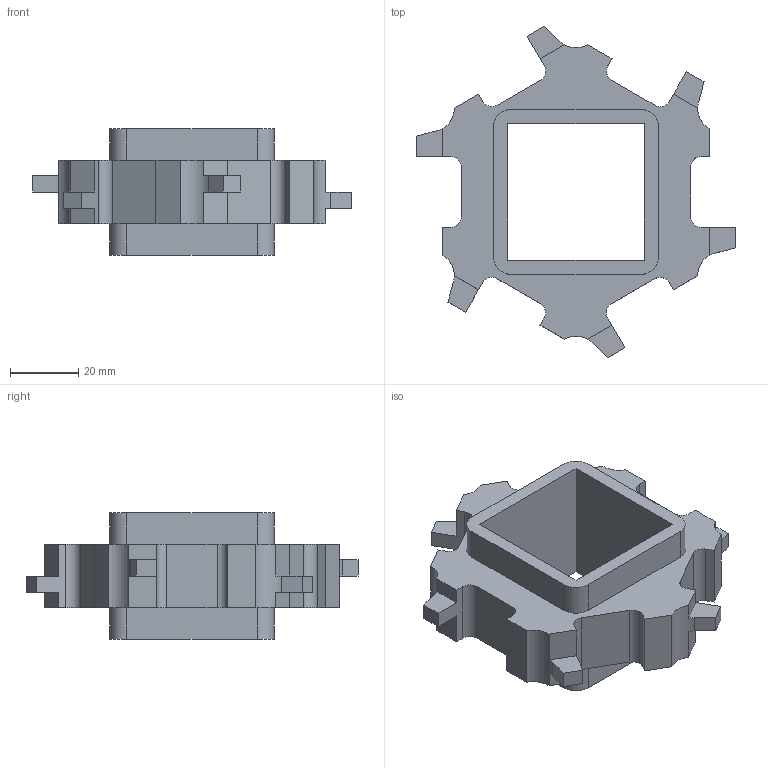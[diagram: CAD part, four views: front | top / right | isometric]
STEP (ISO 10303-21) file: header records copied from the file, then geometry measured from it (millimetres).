
FILE_DESCRIPTION((''),'2;1');
FILE_NAME('S200_SPROCKET_40X15_40_SQ','2008-12-12T',('jmumphre'),(''),'PRO/ENGINEER BY PARAMETRIC TECHNOLOGY CORPORATION, 2008150','PRO/ENGINEER BY PARAMETRIC TECHNOLOGY CORPORATION, 2008150','');
FILE_SCHEMA(('CONFIG_CONTROL_DESIGN'));
Length unit declared in the file: inch
Products named in the file (1): S200_SPROCKET_40X15_40_SQ
Bounding box: 93.43 x 97.27 x 37.08 mm (x, y, z)
Volume: 69559.1 mm3; surface area: 22174 mm2
Topology: 1 solids, 1 shells, 102 faces, 294 edges, 196 vertices
Faces by surface type: plane 76, cylinder 26
Entity records: 3386 total; most frequent: CARTESIAN_POINT 592, ORIENTED_EDGE 588, DIRECTION 562, EDGE_CURVE 294, VECTOR 230, LINE 230, VERTEX_POINT 196, AXIS2_PLACEMENT_3D 166
